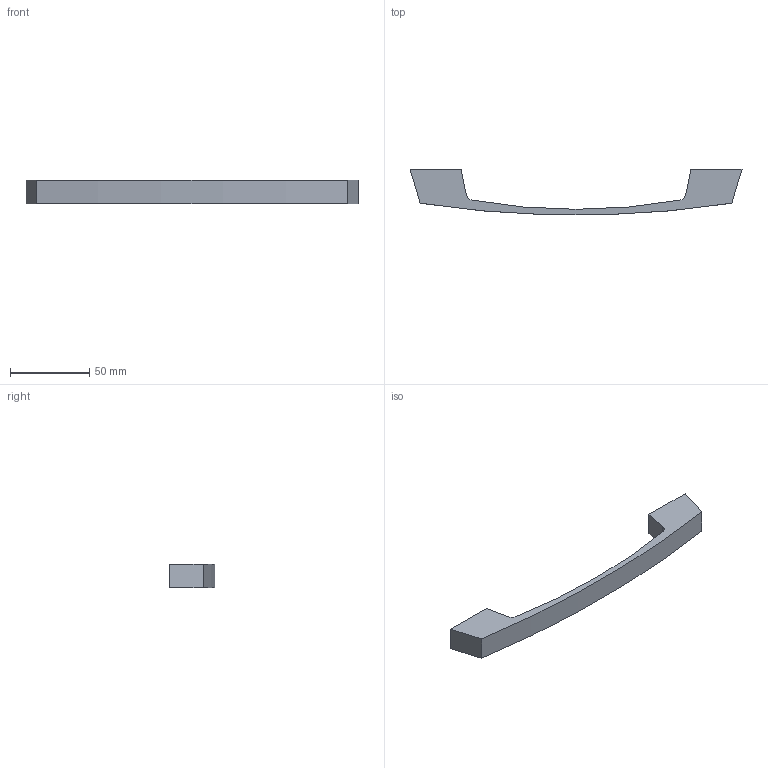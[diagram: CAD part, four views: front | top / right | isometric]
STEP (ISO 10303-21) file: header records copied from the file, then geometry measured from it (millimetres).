
FILE_DESCRIPTION( ( '' ), '1' );
FILE_NAME( 'D:/1.AUTOCAD EXPORT/Group 10/sheet_10_1/DONE/Sachin_1/115193.stp', '2013-10-29T09:51:34', ( '' ), ( '' ), ' ', ' ', ' ' );
FILE_SCHEMA( ( 'CONFIG_CONTROL_DESIGN' ) );
Length unit declared in the file: millimetre
Products named in the file (1): 1
Bounding box: 210 x 28.7 x 15 mm (x, y, z)
Volume: 31246.2 mm3; surface area: 11634.4 mm2
Topology: 1 solids, 1 shells, 18 faces, 42 edges, 28 vertices
Faces by surface type: plane 10, cylinder 8
Entity records: 566 total; most frequent: DIRECTION 96, CARTESIAN_POINT 89, ORIENTED_EDGE 84, EDGE_CURVE 42, AXIS2_PLACEMENT_3D 35, VERTEX_POINT 28, LINE 26, VECTOR 26
